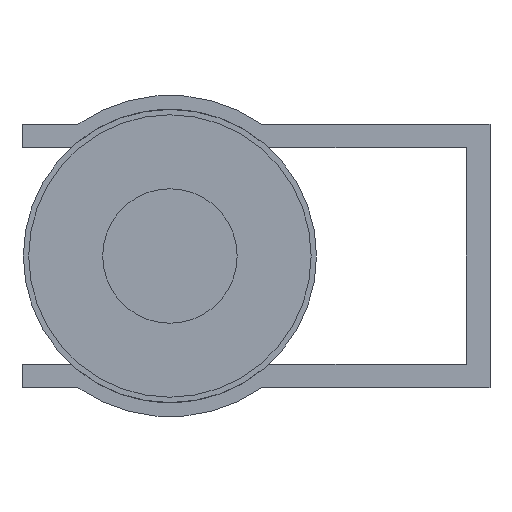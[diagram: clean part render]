
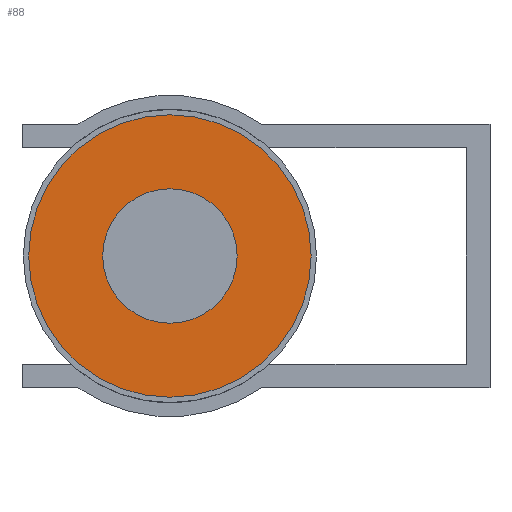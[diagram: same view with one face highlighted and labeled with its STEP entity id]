
A CAD part, left-side view. The second image highlights one B-rep face of the part: STEP entity #88.
In plain terms, the highlighted planar face has unit normal (-1, 0, 0).
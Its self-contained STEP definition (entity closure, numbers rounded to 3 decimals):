
#88=ADVANCED_FACE('',(#163,#164),#165,.F.);
#163=FACE_BOUND('',#300,.T.);
#164=FACE_OUTER_BOUND('',#301,.T.);
#165=PLANE('',#302);
#300=EDGE_LOOP('',(#478));
#301=EDGE_LOOP('',(#479));
#302=AXIS2_PLACEMENT_3D('',#480,#481,#482);
#478=ORIENTED_EDGE('',*,*,#850,.T.);
#479=ORIENTED_EDGE('',*,*,#854,.F.);
#480=CARTESIAN_POINT('',(-45.1,5.0,0.0));
#481=DIRECTION('',(1.0,0.,0.0));
#482=DIRECTION('',(0.,1.0,0.0));
#850=EDGE_CURVE('',#1004,#1004,#1005,.T.);
#854=EDGE_CURVE('',#1012,#1012,#1013,.T.);
#1004=VERTEX_POINT('',#1240);
#1005=CIRCLE('',#1241,5.0);
#1012=VERTEX_POINT('',#1248);
#1013=CIRCLE('',#1249,10.5);
#1240=CARTESIAN_POINT('',(-45.1,5.0,0.0));
#1241=AXIS2_PLACEMENT_3D('',#1512,#1513,#1514);
#1248=CARTESIAN_POINT('',(-45.1,10.5,0.0));
#1249=AXIS2_PLACEMENT_3D('',#1524,#1525,#1526);
#1512=CARTESIAN_POINT('',(-45.1,0.,0.0));
#1513=DIRECTION('',(1.0,0.,0.0));
#1514=DIRECTION('',(0.,1.0,0.0));
#1524=CARTESIAN_POINT('',(-45.1,0.,0.0));
#1525=DIRECTION('',(1.0,0.,0.0));
#1526=DIRECTION('',(0.,1.0,0.0));
